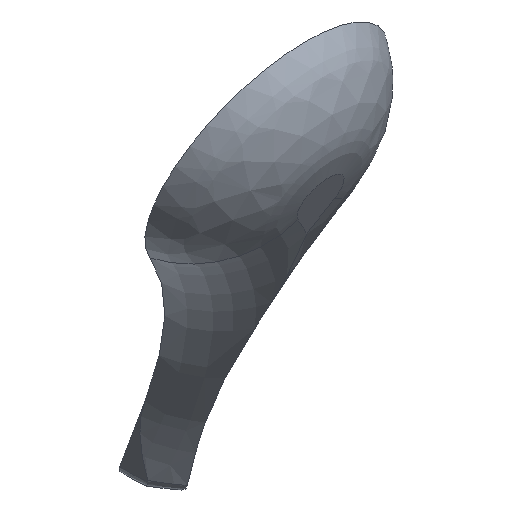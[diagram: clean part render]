
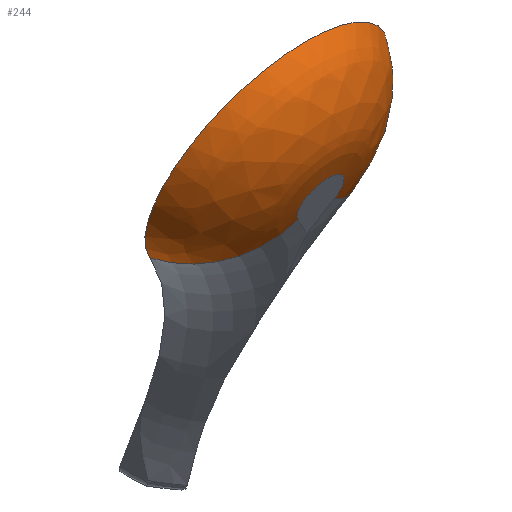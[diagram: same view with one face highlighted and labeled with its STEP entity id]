
A CAD part, isometric view. The second image highlights one B-rep face of the part: STEP entity #244.
In plain terms, the highlighted free-form (B-spline) face has degree [2, 2] with [3, 7] control points.
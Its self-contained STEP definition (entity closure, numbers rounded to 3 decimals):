
#19=(
BOUNDED_SURFACE()
B_SPLINE_SURFACE(2,2,((#819,#820,#821,#822,#823,#824,#825),(#826,#827,#828,
#829,#830,#831,#832),(#833,#834,#835,#836,#837,#838,#839)),
 .UNSPECIFIED.,.F.,.F.,.F.)
B_SPLINE_SURFACE_WITH_KNOTS((3,3),(3,2,2,3),(0.461,1.571),
(-2.189,-0.73,0.73,2.189),
 .UNSPECIFIED.)
GEOMETRIC_REPRESENTATION_ITEM()
RATIONAL_B_SPLINE_SURFACE(((1.,0.745,1.,0.745,1.,
0.745,1.),(0.85,0.633,0.85,
0.633,0.85,0.633,0.85),
(1.,0.745,1.,0.745,1.,0.745,1.)))
REPRESENTATION_ITEM('')
SURFACE()
);
#34=CIRCLE('',#271,10.);
#37=CIRCLE('',#275,9.);
#39=CIRCLE('',#277,9.);
#40=CIRCLE('',#278,1.938);
#55=FACE_OUTER_BOUND('',#71,.T.);
#71=EDGE_LOOP('',(#202,#203,#204,#205));
#114=VERTEX_POINT('',#769);
#115=VERTEX_POINT('',#771);
#120=VERTEX_POINT('',#799);
#122=VERTEX_POINT('',#840);
#143=EDGE_CURVE('',#115,#114,#34,.T.);
#150=EDGE_CURVE('',#120,#115,#37,.T.);
#153=EDGE_CURVE('',#114,#122,#39,.T.);
#154=EDGE_CURVE('',#122,#120,#40,.T.);
#202=ORIENTED_EDGE('',*,*,#153,.T.);
#203=ORIENTED_EDGE('',*,*,#154,.T.);
#204=ORIENTED_EDGE('',*,*,#150,.T.);
#205=ORIENTED_EDGE('',*,*,#143,.T.);
#244=ADVANCED_FACE('',(#55),#19,.T.);
#271=AXIS2_PLACEMENT_3D('',#772,#302,#303);
#275=AXIS2_PLACEMENT_3D('',#800,#311,#312);
#277=AXIS2_PLACEMENT_3D('',#841,#315,#316);
#278=AXIS2_PLACEMENT_3D('',#842,#317,#318);
#302=DIRECTION('center_axis',(0.004,-0.94,-0.341));
#303=DIRECTION('ref_axis',(0.814,0.201,-0.545));
#311=DIRECTION('center_axis',(0.581,-0.276,0.766));
#312=DIRECTION('ref_axis',(0.004,-0.94,-0.341));
#315=DIRECTION('center_axis',(-0.579,-0.28,0.766));
#316=DIRECTION('ref_axis',(-0.729,-0.244,-0.64));
#317=DIRECTION('center_axis',(-0.004,0.94,0.341));
#318=DIRECTION('ref_axis',(-0.001,0.341,-0.94));
#769=CARTESIAN_POINT('',(-8.113,-5.827,43.567));
#771=CARTESIAN_POINT('',(8.183,-5.763,43.572));
#772=CARTESIAN_POINT('Origin',(0.041,-7.772,49.019));
#799=CARTESIAN_POINT('',(1.637,-12.083,46.258));
#800=CARTESIAN_POINT('Origin',(1.603,-3.622,49.328));
#819=CARTESIAN_POINT('Ctrl Pts',(-8.113,-5.827,43.567));
#820=CARTESIAN_POINT('Ctrl Pts',(-13.291,-8.333,50.416));
#821=CARTESIAN_POINT('Ctrl Pts',(-6.618,-10.34,56.024));
#822=CARTESIAN_POINT('Ctrl Pts',(0.055,-12.348,61.631));
#823=CARTESIAN_POINT('Ctrl Pts',(6.715,-10.288,56.028));
#824=CARTESIAN_POINT('Ctrl Pts',(13.376,-8.228,50.424));
#825=CARTESIAN_POINT('Ctrl Pts',(8.183,-5.763,43.572));
#826=CARTESIAN_POINT('Ctrl Pts',(-6.072,-11.009,43.214));
#827=CARTESIAN_POINT('Ctrl Pts',(-9.965,-12.894,48.364));
#828=CARTESIAN_POINT('Ctrl Pts',(-4.947,-14.403,52.581));
#829=CARTESIAN_POINT('Ctrl Pts',(0.071,-15.913,56.797));
#830=CARTESIAN_POINT('Ctrl Pts',(5.079,-14.364,52.584));
#831=CARTESIAN_POINT('Ctrl Pts',(10.087,-12.815,48.37));
#832=CARTESIAN_POINT('Ctrl Pts',(6.182,-10.961,43.218));
#833=CARTESIAN_POINT('Ctrl Pts',(-1.52,-12.095,46.257));
#834=CARTESIAN_POINT('Ctrl Pts',(-2.524,-12.581,47.584));
#835=CARTESIAN_POINT('Ctrl Pts',(-1.23,-12.97,48.671));
#836=CARTESIAN_POINT('Ctrl Pts',(0.063,-13.359,49.757));
#837=CARTESIAN_POINT('Ctrl Pts',(1.353,-12.96,48.672));
#838=CARTESIAN_POINT('Ctrl Pts',(2.644,-12.56,47.586));
#839=CARTESIAN_POINT('Ctrl Pts',(1.637,-12.083,46.258));
#840=CARTESIAN_POINT('',(-1.52,-12.095,46.257));
#841=CARTESIAN_POINT('Origin',(-1.554,-3.635,49.327));
#842=CARTESIAN_POINT('Origin',(0.06,-12.472,47.314));
